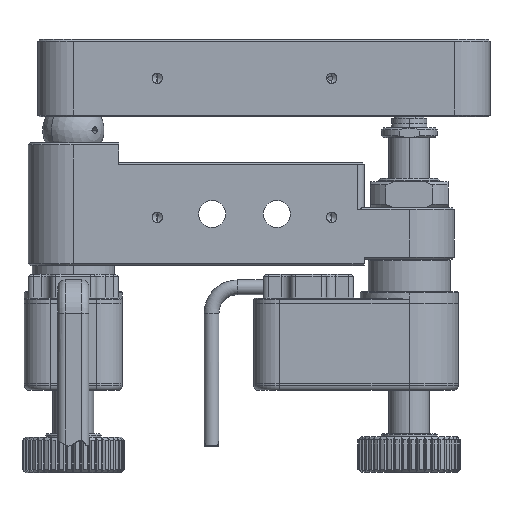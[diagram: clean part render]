
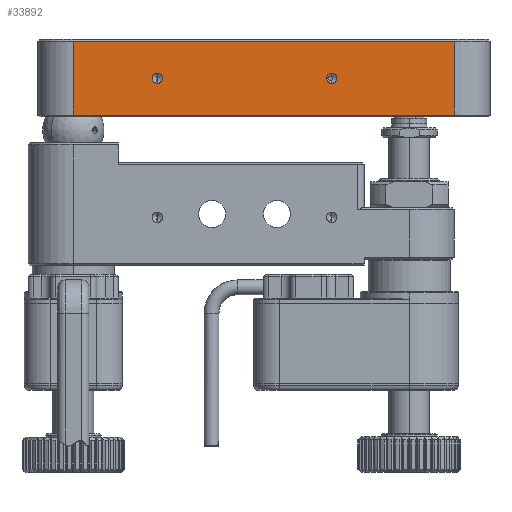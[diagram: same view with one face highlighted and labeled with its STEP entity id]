
A CAD part, front view. The second image highlights one B-rep face of the part: STEP entity #33892.
In plain terms, the highlighted planar face has unit normal (0, -1, 0).
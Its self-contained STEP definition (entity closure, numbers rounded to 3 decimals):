
#446 = LINE ( 'NONE', #33011, #16939 ) ;
#569 = DIRECTION ( 'NONE',  ( 1., 0., 0. ) ) ;
#1977 = EDGE_CURVE ( 'NONE', #17266, #9040, #47356, .T. ) ;
#3706 = DIRECTION ( 'NONE',  ( 0., -1., 0. ) ) ;
#5013 = EDGE_LOOP ( 'NONE', ( #44295, #32867 ) ) ;
#5029 = VERTEX_POINT ( 'NONE', #31591 ) ;
#5304 = ORIENTED_EDGE ( 'NONE', *, *, #10078, .T. ) ;
#6415 = DIRECTION ( 'NONE',  ( 0., 0., -1. ) ) ;
#6982 = CARTESIAN_POINT ( 'NONE',  ( -18.5, -37., 29.02 ) ) ;
#7960 = VECTOR ( 'NONE', #569, 1000. ) ;
#9020 = VERTEX_POINT ( 'NONE', #9333 ) ;
#9040 = VERTEX_POINT ( 'NONE', #49177 ) ;
#9333 = CARTESIAN_POINT ( 'NONE',  ( 27.5, -37., 34.72 ) ) ;
#9559 = AXIS2_PLACEMENT_3D ( 'NONE', #14101, #13774, #6415 ) ;
#9750 = DIRECTION ( 'NONE',  ( -1., 0., 0. ) ) ;
#10078 = EDGE_CURVE ( 'NONE', #5029, #9020, #41543, .T. ) ;
#10203 = ORIENTED_EDGE ( 'NONE', *, *, #1977, .F. ) ;
#11464 = EDGE_CURVE ( 'NONE', #17348, #29902, #28719, .T. ) ;
#12445 = EDGE_CURVE ( 'NONE', #9040, #17266, #41990, .T. ) ;
#13774 = DIRECTION ( 'NONE',  ( 0., -1., 0. ) ) ;
#14101 = CARTESIAN_POINT ( 'NONE',  ( 8.5, -37., 29.02 ) ) ;
#14336 = EDGE_LOOP ( 'NONE', ( #15210, #35821, #5304, #17935 ) ) ;
#15210 = ORIENTED_EDGE ( 'NONE', *, *, #31316, .T. ) ;
#16939 = VECTOR ( 'NONE', #9750, 1000. ) ;
#17266 = VERTEX_POINT ( 'NONE', #24721 ) ;
#17348 = VERTEX_POINT ( 'NONE', #30024 ) ;
#17935 = ORIENTED_EDGE ( 'NONE', *, *, #45933, .T. ) ;
#18294 = DIRECTION ( 'NONE',  ( 0., 1., 0. ) ) ;
#20458 = CARTESIAN_POINT ( 'NONE',  ( -18.5, -37., 29.02 ) ) ;
#20820 = EDGE_LOOP ( 'NONE', ( #35261, #10203 ) ) ;
#21547 = VERTEX_POINT ( 'NONE', #38615 ) ;
#21914 = CARTESIAN_POINT ( 'NONE',  ( 8.5, -37., 29.02 ) ) ;
#21917 = DIRECTION ( 'NONE',  ( 0., 0., 1. ) ) ;
#23363 = VECTOR ( 'NONE', #21917, 1000. ) ;
#24319 = EDGE_CURVE ( 'NONE', #48009, #5029, #40774, .T. ) ;
#24721 = CARTESIAN_POINT ( 'NONE',  ( -18.5, -37., 29.82 ) ) ;
#25940 = PLANE ( 'NONE',  #46035 ) ;
#26966 = FACE_BOUND ( 'NONE', #20820, .T. ) ;
#27816 = CARTESIAN_POINT ( 'NONE',  ( -37., -37., 23.32 ) ) ;
#27913 = CARTESIAN_POINT ( 'NONE',  ( -31.5, -37., 35.02 ) ) ;
#28116 = DIRECTION ( 'NONE',  ( 0., -1., 0. ) ) ;
#28564 = CARTESIAN_POINT ( 'NONE',  ( 8.5, -37., 28.22 ) ) ;
#28719 = CIRCLE ( 'NONE', #9559, 0.8 ) ;
#29876 = DIRECTION ( 'NONE',  ( 0., 0., -1. ) ) ;
#29902 = VERTEX_POINT ( 'NONE', #28564 ) ;
#30024 = CARTESIAN_POINT ( 'NONE',  ( 8.5, -37., 29.82 ) ) ;
#30620 = FACE_BOUND ( 'NONE', #5013, .T. ) ;
#31316 = EDGE_CURVE ( 'NONE', #21547, #48009, #47528, .T. ) ;
#31591 = CARTESIAN_POINT ( 'NONE',  ( 27.5, -37., 23.32 ) ) ;
#32867 = ORIENTED_EDGE ( 'NONE', *, *, #11464, .F. ) ;
#33011 = CARTESIAN_POINT ( 'NONE',  ( -31.5, -37., 34.72 ) ) ;
#33892 = ADVANCED_FACE ( 'NONE', ( #26966, #30620, #46350 ), #25940, .F. ) ;
#34857 = DIRECTION ( 'NONE',  ( 0., 0., -1. ) ) ;
#35261 = ORIENTED_EDGE ( 'NONE', *, *, #12445, .F. ) ;
#35306 = AXIS2_PLACEMENT_3D ( 'NONE', #20458, #28116, #39486 ) ;
#35821 = ORIENTED_EDGE ( 'NONE', *, *, #24319, .T. ) ;
#36806 = EDGE_CURVE ( 'NONE', #29902, #17348, #50399, .T. ) ;
#37328 = CARTESIAN_POINT ( 'NONE',  ( -31.5, -37., 23.32 ) ) ;
#38159 = DIRECTION ( 'NONE',  ( 0., 0., 1. ) ) ;
#38615 = CARTESIAN_POINT ( 'NONE',  ( -31.5, -37., 34.72 ) ) ;
#38757 = DIRECTION ( 'NONE',  ( 0., 0., -1. ) ) ;
#39486 = DIRECTION ( 'NONE',  ( 0., 0., -1. ) ) ;
#40774 = LINE ( 'NONE', #27816, #7960 ) ;
#41401 = CARTESIAN_POINT ( 'NONE',  ( 27.5, -37., 35.02 ) ) ;
#41533 = CARTESIAN_POINT ( 'NONE',  ( -37., -37., 35.02 ) ) ;
#41543 = LINE ( 'NONE', #41401, #23363 ) ;
#41990 = CIRCLE ( 'NONE', #45675, 0.8 ) ;
#42753 = AXIS2_PLACEMENT_3D ( 'NONE', #21914, #49004, #29876 ) ;
#44295 = ORIENTED_EDGE ( 'NONE', *, *, #36806, .F. ) ;
#45094 = VECTOR ( 'NONE', #34857, 1000. ) ;
#45675 = AXIS2_PLACEMENT_3D ( 'NONE', #6982, #3706, #38757 ) ;
#45933 = EDGE_CURVE ( 'NONE', #9020, #21547, #446, .T. ) ;
#46035 = AXIS2_PLACEMENT_3D ( 'NONE', #41533, #18294, #38159 ) ;
#46350 = FACE_OUTER_BOUND ( 'NONE', #14336, .T. ) ;
#47356 = CIRCLE ( 'NONE', #35306, 0.8 ) ;
#47528 = LINE ( 'NONE', #27913, #45094 ) ;
#48009 = VERTEX_POINT ( 'NONE', #37328 ) ;
#49004 = DIRECTION ( 'NONE',  ( 0., -1., 0. ) ) ;
#49177 = CARTESIAN_POINT ( 'NONE',  ( -18.5, -37., 28.22 ) ) ;
#50399 = CIRCLE ( 'NONE', #42753, 0.8 ) ;
